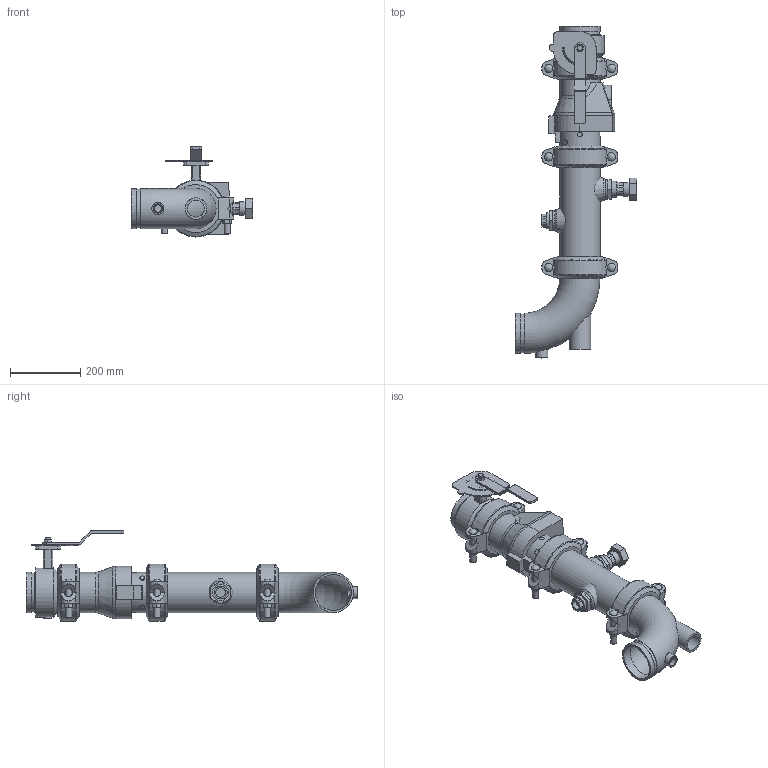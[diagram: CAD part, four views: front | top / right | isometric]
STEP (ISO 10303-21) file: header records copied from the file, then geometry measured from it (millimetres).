
FILE_DESCRIPTION(/* description */ ('VIC DVI PUMP DROP HORZ S/380G (OGSxOGS)','CAx-IF Rec.Pracs.---Representation and Presentation of Product Manufacturing Information (PMI)---4.0---2014-10-13'),/* implementation_level */ '2;1');
FILE_NAME(/* name */ 'C:\Users\kkamble\AppData\Roaming\Autodesk\ApplicationPlugins\Victaulic.Temp\A789\Victaulic_IPS_Horizontal DVI_CL 150_Series 380 (OGSxOGS)_924 (1.25)_04.0x04.0 (100x100).stp',/* time_stamp */ '2021-07-06T09:52:49+05:00',/* author */ ('Vjadhav'),/* organization */ ('Victaulic'),/* preprocessor_version */ 'ST-DEVELOPER v17.2',/* originating_system */ 'Autodesk Inventor 2019',/* authorisation */ '');
FILE_SCHEMA (('AP242_MANAGED_MODEL_BASED_3D_ENGINEERING_MIM_LF { 1 0 10303 442 1 1 4 }'));
Length unit declared in the file: inch
Products named in the file (8): 380_924 (1.25)-04.0x04.0; Pipe-04.0x04.0; 761-04.0; 177N-04.0; 924-04.0x01.25; 923-04.0x0.75; 779-04.0; 100G-04.0
Assembly tree (9 placements, depth 2):
  380_924 (1.25)-04.0x04.0
    177N-04.0  x3
    Pipe-04.0x04.0
    761-04.0
    924-04.0x01.25
    923-04.0x0.75
    779-04.0
    100G-04.0
Bounding box: 345.95 x 942.98 x 256.03 mm (x, y, z)
Volume: 6159014.4 mm3; surface area: 1206247.2 mm2
Topology: 9 solids, 11 shells, 609 faces, 1595 edges, 1059 vertices
Faces by surface type: plane 352, cylinder 210, torus 21, cone 18, sphere 6, bspline 2
Full cylindrical faces by diameter (mm): 4.826 x10, 8.636 x4, 13.716 x2, 14.986 x2, 17.424 x6, 20.93 x1, 21.336 x1, 22.86 x1, 23.495 x6, 26.67 x4, 34.29 x1, 38.608 x1, 42.164 x1, 45.974 x4, 48.26 x1, 48.514 x1, 55.118 x1, 55.626 x2, 60.96 x1, 101.6 x3, 102.26 x5, 110.084 x8, 114.3 x19, 139.7 x1
Entity records: 14375 total; most frequent: CARTESIAN_POINT 3025, DIRECTION 2336, ORIENTED_EDGE 2138, EDGE_CURVE 1069, AXIS2_PLACEMENT_3D 886, VERTEX_POINT 715, LINE 564, VECTOR 564
